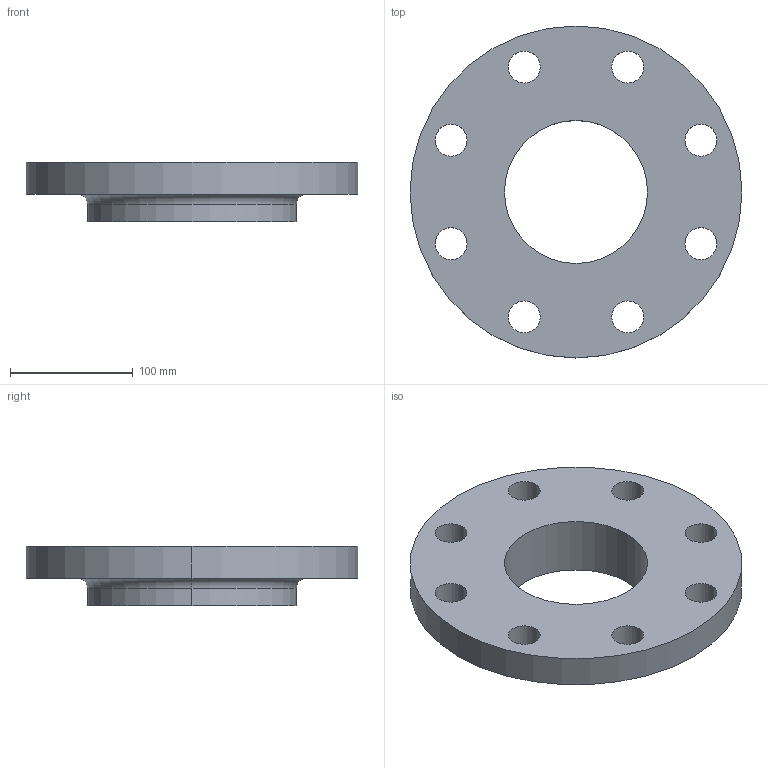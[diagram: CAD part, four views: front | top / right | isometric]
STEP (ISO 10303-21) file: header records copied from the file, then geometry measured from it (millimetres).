
FILE_DESCRIPTION (( 'STEP AP214' ), '1' );
FILE_NAME ('PN40 DN125 Type 13 - Type A Face.STEP', '2019-01-02T02:09:56', ( '' ), ( '' ), 'SwSTEP 2.0', 'SolidWorks 2019', '' );
FILE_SCHEMA (( 'AUTOMOTIVE_DESIGN' ));
Length unit declared in the file: millimetre
Products named in the file (1): PN40 DN125 Type 13 - Type A Face
Bounding box: 270 x 270 x 48 mm (x, y, z)
Volume: 1374798.7 mm3; surface area: 151287.1 mm2
Topology: 1 solids, 1 shells, 27 faces, 70 edges, 46 vertices
Faces by surface type: cylinder 22, plane 3, torus 2
Entity records: 926 total; most frequent: DIRECTION 174, CARTESIAN_POINT 144, ORIENTED_EDGE 140, AXIS2_PLACEMENT_3D 76, EDGE_CURVE 70, CIRCLE 48, VERTEX_POINT 46, EDGE_LOOP 46
